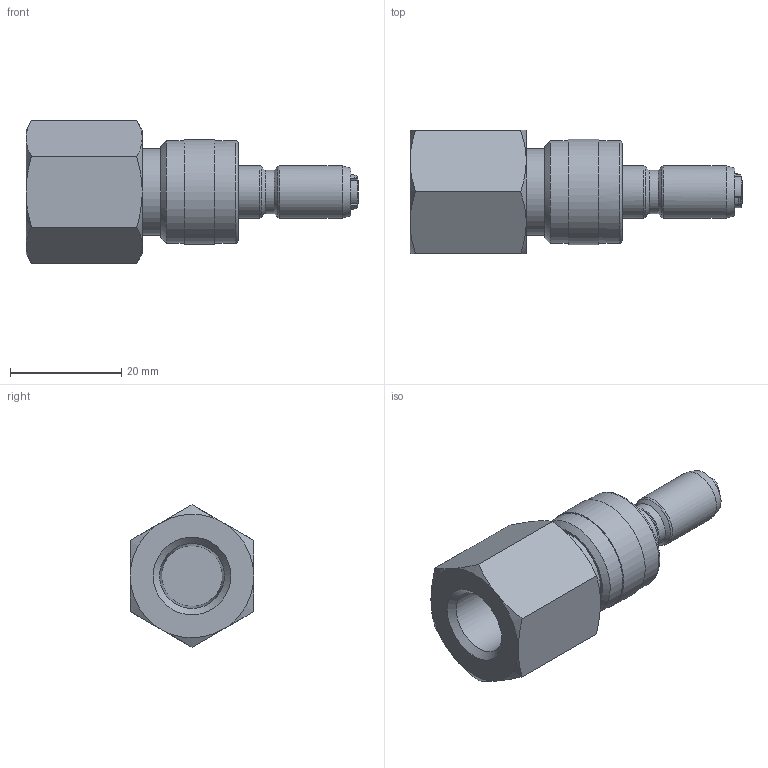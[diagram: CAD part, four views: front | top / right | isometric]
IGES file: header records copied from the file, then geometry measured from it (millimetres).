
Global section: file name: SQC2P-F4N-S0; native system: Autodesk Inventor 2016; preprocessor: unknown; author: 이승민,,11,0; organization: 20170208.004828; date: 20170209.081318; units: millimetre
Bounding box: 59.7 x 22.2 x 25.63 mm (x, y, z)
Volume: 12447.5 mm3; surface area: 5465.8 mm2
Topology: 1 solids, 1 shells, 89 faces, 243 edges, 168 vertices
Faces by surface type: bspline 89
